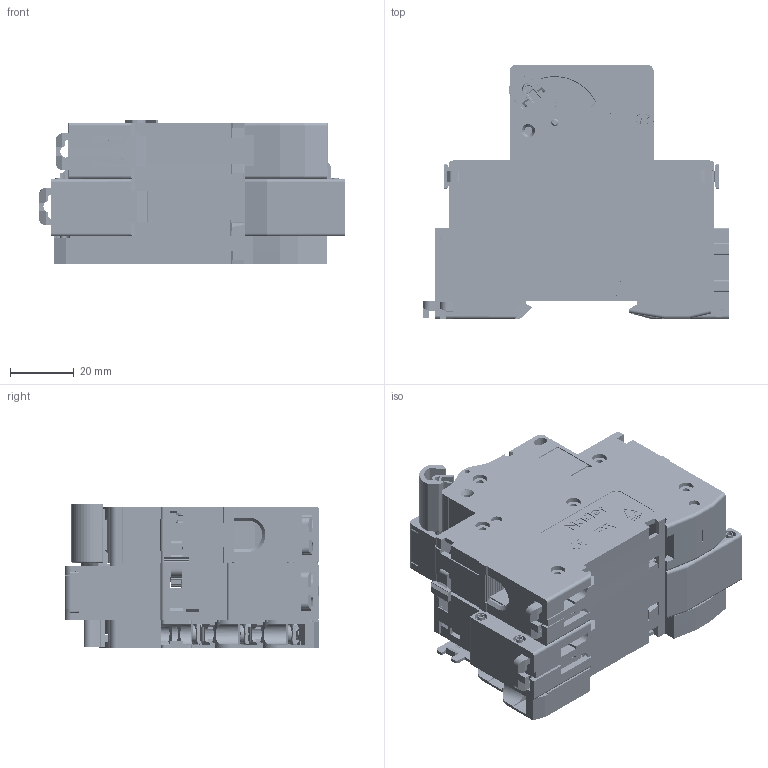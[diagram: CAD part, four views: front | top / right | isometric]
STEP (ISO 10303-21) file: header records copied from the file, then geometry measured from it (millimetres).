
FILE_DESCRIPTION (( 'STEP AP203' ), '1' );
FILE_NAME ('NDB2Z-63 1P +Tm2 + OF2.STEP', '2021-07-14T05:46:07', ( '' ), ( '' ), 'SwSTEP 2.0', 'SolidWorks 2018', '' );
FILE_SCHEMA (( 'CONFIG_CONTROL_DESIGN' ));
Length unit declared in the file: millimetre
Products named in the file (1): NDB2Z-63 1P +Tm2 + OF2
Bounding box: 95.62 x 79.58 x 45 mm (x, y, z)
Volume: 88795.6 mm3; surface area: 140464.3 mm2
Topology: 79 solids, 80 shells, 8636 faces, 23912 edges, 15649 vertices
Faces by surface type: plane 5358, cylinder 2337, cone 481, bspline 363, torus 68, sphere 29
Entity records: 327856 total; most frequent: CARTESIAN_POINT 109516, ORIENTED_EDGE 47762, DIRECTION 42416, EDGE_CURVE 23881, LINE 16344, VECTOR 16344, VERTEX_POINT 15640, AXIS2_PLACEMENT_3D 13036
